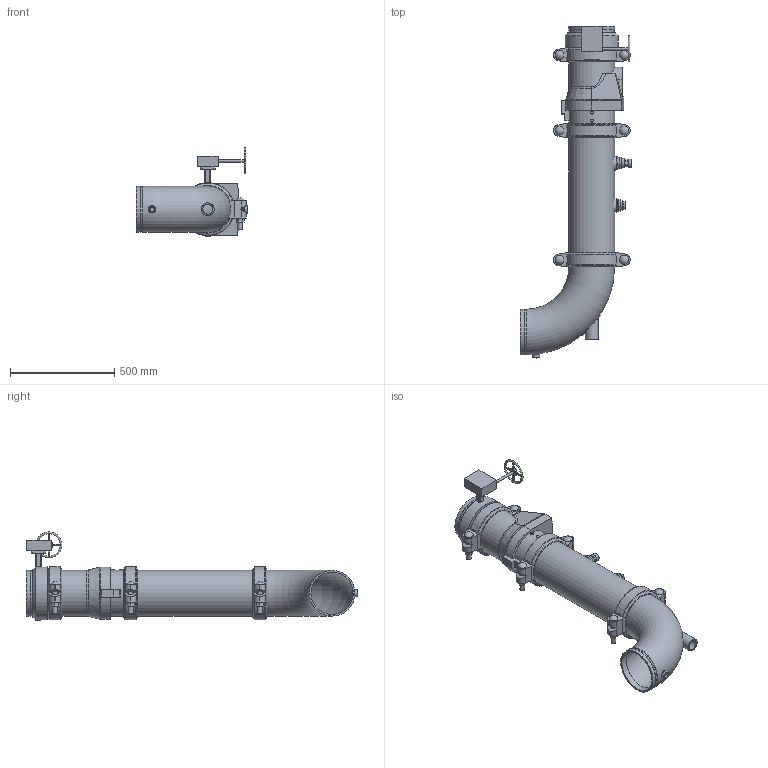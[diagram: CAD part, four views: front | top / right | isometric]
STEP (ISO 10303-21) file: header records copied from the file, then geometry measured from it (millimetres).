
FILE_DESCRIPTION(/* description */ ('VIC DVI PUMP DROP HORZ S/380G (OGSxOGS)','CAx-IF Rec.Pracs.---Representation and Presentation of Product Manufacturing Information (PMI)---4.0---2014-10-13'),/* implementation_level */ '2;1');
FILE_NAME(/* name */ 'C:\Users\kkamble\AppData\Roaming\Autodesk\ApplicationPlugins\Victaulic.Temp\A789\Victaulic_IPS_Horizontal DVI_CL 150_Series 380 (OGSxOGS)_924 (0.75)_08.0x08.0 (200x200).stp',/* time_stamp */ '2021-07-06T09:53:56+05:00',/* author */ ('Vjadhav'),/* organization */ ('Victaulic'),/* preprocessor_version */ 'ST-DEVELOPER v17.2',/* originating_system */ 'Autodesk Inventor 2019',/* authorisation */ '');
FILE_SCHEMA (('AP242_MANAGED_MODEL_BASED_3D_ENGINEERING_MIM_LF { 1 0 10303 442 1 1 4 }'));
Length unit declared in the file: inch
Products named in the file (8): 380_924 (0.75)-08.0x08.0; Pipe-08.0x08.0; 177N-08.0; 924-04.0x0.75; 923-04.0x0.75; 779-08.0; 761-08.0; 100G-08.0
Assembly tree (9 placements, depth 2):
  380_924 (0.75)-08.0x08.0
    177N-08.0  x3
    Pipe-08.0x08.0
    924-04.0x0.75
    923-04.0x0.75
    779-08.0
    761-08.0
    100G-08.0
Bounding box: 534.73 x 1589.21 x 422.39 mm (x, y, z)
Volume: 18019069.7 mm3; surface area: 3122477.9 mm2
Topology: 9 solids, 10 shells, 567 faces, 1478 edges, 989 vertices
Faces by surface type: plane 335, cylinder 184, torus 22, cone 18, sphere 6, bspline 2
Full cylindrical faces by diameter (mm): 8.636 x4, 12.446 x1, 12.7 x1, 13.716 x4, 20.93 x1, 22.86 x1, 23.774 x6, 26.67 x4, 34.29 x1, 38.608 x1, 39.125 x1, 42.85 x6, 45.974 x4, 48.26 x1, 55.118 x1, 55.626 x2, 60.96 x1, 202.717 x5, 206.375 x3, 214.401 x8, 219.075 x19, 254 x1
Entity records: 13208 total; most frequent: CARTESIAN_POINT 2971, DIRECTION 2087, ORIENTED_EDGE 1936, EDGE_CURVE 968, AXIS2_PLACEMENT_3D 797, VERTEX_POINT 653, LINE 493, VECTOR 493
